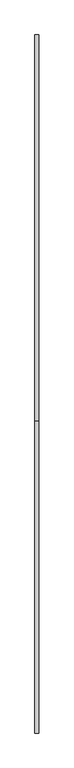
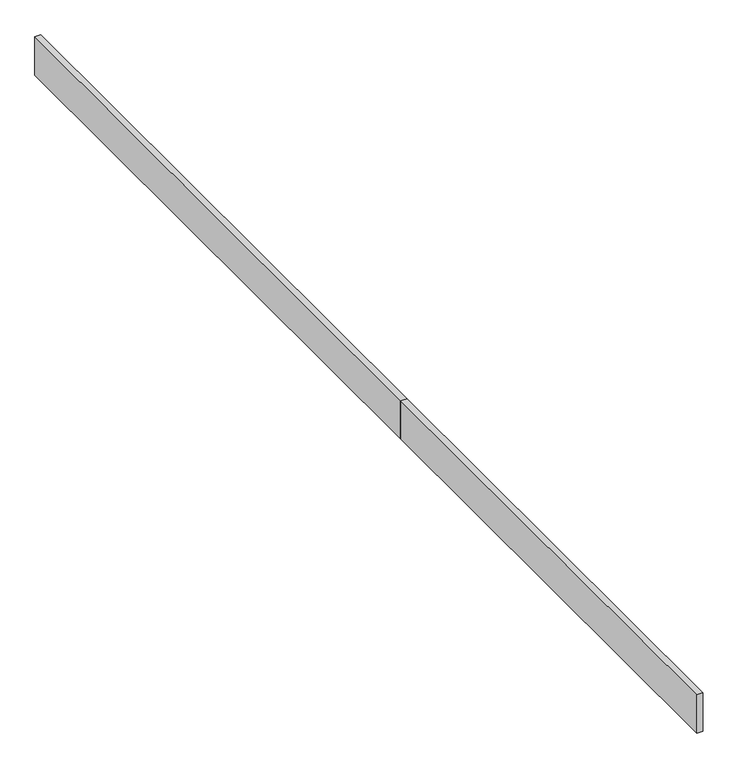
"""IFC4 building model written with IfcOpenShell, lengths in millimetres: railing geometry, Einfassung, Abschluss Grünfläche."""

from ifc_helpers import new_model, si_unit, frame, origin, place, context, project, spatial, polyline, outline, extrude, source, transform, mapped, element, save


def railing_fcaee8eb(model_context):
    return source(origin(), model_context, "Body", "SweptSolid", [
        extrude(outline(polyline([(6453.1107384, -12001.0607565), (6513.1107384, -12001.0608994), (6513.0957537, -18290.5588155), (6453.0957537, -18290.5586726), (6453.1107384, -12001.0607565)])), frame((0.0, 0.0, 660.0), z_axis=(0.0, 0.0, 1.0), x_axis=(1.0, 0.0, 0.0)), (0.0, 0.0, 1.0), 400.0),
        extrude(outline(polyline([(6453.0957537, -18290.5589922), (6513.0957537, -18290.5588155), (6513.1107384, -23380.6172052), (6453.1107384, -23380.6173818), (6453.0957537, -18290.5589922)])), frame((0.0, 0.0, 660.0), z_axis=(0.0, 0.0, 1.0), x_axis=(1.0, 0.0, 0.0)), (0.0, 0.0, 1.0), 400.0),
    ])


if __name__ == "__main__":
    model = new_model("IFC4")
    model_context = context("Model", 3, world=origin())
    ifc_project = project(units=[si_unit("LENGTHUNIT", "METRE", prefix="MILLI")], contexts=[model_context])
    site = spatial("IfcSite", under=ifc_project)
    building = spatial("IfcBuilding", under=site)
    placement = place(None, origin())
    railing_shape = railing_fcaee8eb(model_context)
    element("IfcRailing", 1, ObjectType="Einfassung, Abschluss Grünfläche", at=placement, inside=building, context=model_context, shape_type="MappedRepresentation", body=[
        mapped(railing_shape, transform((0.0, 0.0, 0.0), x_axis=(1.0, 0.0, 0.0), y_axis=(0.0, 1.0, 0.0), z_axis=(0.0, 0.0, 1.0))),
    ])
    save(model, "model.ifc")
